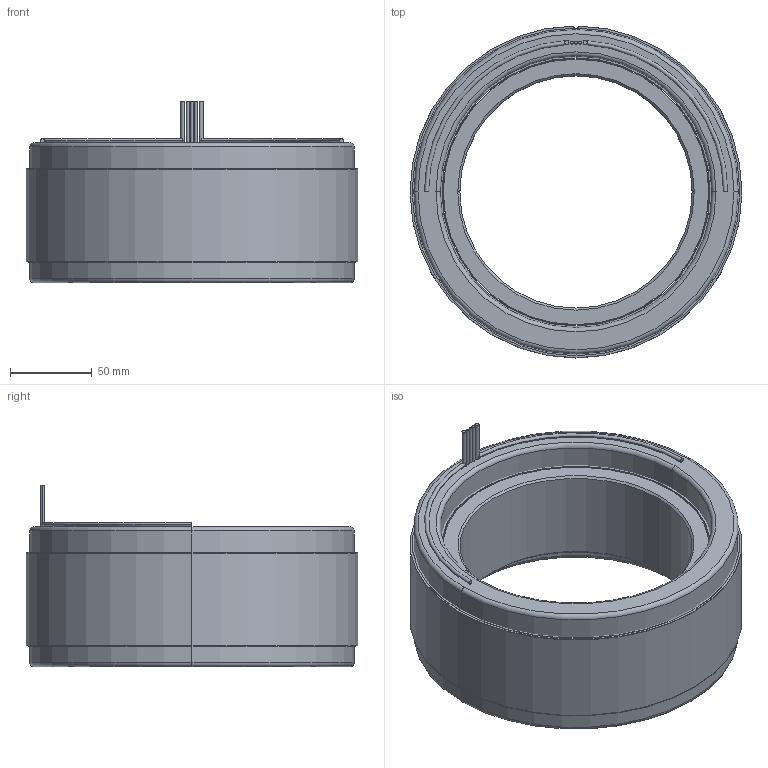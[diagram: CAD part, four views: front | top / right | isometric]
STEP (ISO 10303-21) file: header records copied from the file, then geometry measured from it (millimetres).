
FILE_DESCRIPTION (( 'STEP AP214' ), '1' );
FILE_NAME ('6100326-04.STEP', '2019-10-23T23:25:24', ( '' ), ( '' ), 'SwSTEP 2.0', 'SolidWorks 2016', '' );
FILE_SCHEMA (( 'AUTOMOTIVE_DESIGN' ));
Length unit declared in the file: millimetre
Products named in the file (11): COMP4500534-XX(COIL)_COMP4500534-04; 4500534-XX_4500534-04; 4250358-XX_4250358-04; 4450161-XX_4450161-04; 4600534-00; 4400075-00; 6100326-04; 4150150-XX_4150150-04
Assembly tree (10 placements, depth 4):
  6100326-04
    4500534-XX_4500534-04
      4450161-XX_4450161-04
        4450161-XX_4450161-04
        4400075-00
        4400075-00
        4600534-00
        4600534-00
      COMP4500534-XX(COIL)_COMP4500534-04
    4250358-XX_4250358-04
      4150150-XX_4150150-04
Bounding box: 203.2 x 203.19 x 111 mm (x, y, z)
Volume: 1717487.5 mm3; surface area: 357510.3 mm2
Topology: 14 solids, 14 shells, 94 faces, 186 edges, 120 vertices
Faces by surface type: cylinder 50, plane 28, torus 12, cone 4
Entity records: 2985 total; most frequent: DIRECTION 538, CARTESIAN_POINT 416, ORIENTED_EDGE 372, AXIS2_PLACEMENT_3D 242, EDGE_CURVE 186, CIRCLE 132, VERTEX_POINT 120, EDGE_LOOP 108
